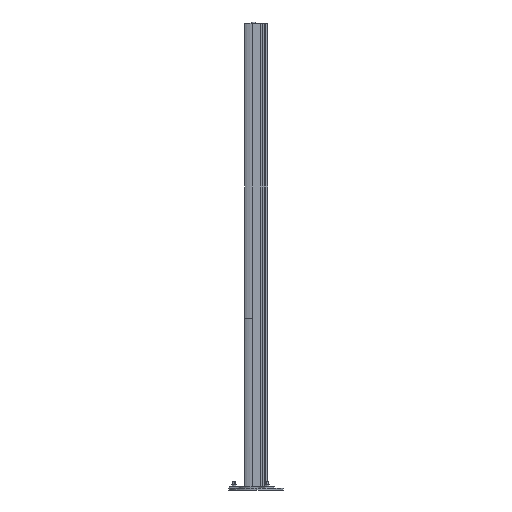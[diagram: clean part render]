
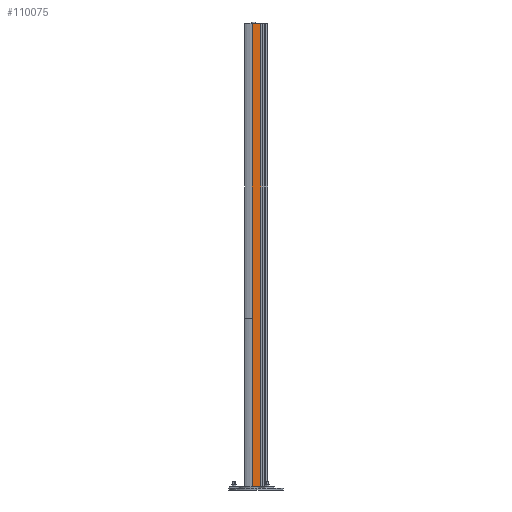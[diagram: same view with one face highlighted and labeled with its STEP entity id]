
A CAD part, left-side view. The second image highlights one B-rep face of the part: STEP entity #110075.
In plain terms, the highlighted planar face has unit normal (-1, 0, 0).
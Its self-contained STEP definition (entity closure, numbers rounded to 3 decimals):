
#103600=DIRECTION('',(0.,1.,0.));
#103601=VECTOR('',#103600,30.399);
#103602=CARTESIAN_POINT('',(-337.654,-66.035,
1567.));
#103603=LINE('',#103602,#103601);
#103607=DIRECTION('',(0.,1.,0.));
#103608=VECTOR('',#103607,30.399);
#103609=CARTESIAN_POINT('',(-337.654,-66.035,
-83.));
#103610=LINE('',#103609,#103608);
#103614=DIRECTION('',(0.,0.,1.));
#103615=VECTOR('',#103614,1650.);
#103616=CARTESIAN_POINT('',(-337.654,-35.636,
-83.));
#103617=LINE('',#103616,#103615);
#103621=DIRECTION('',(0.,0.,-1.));
#103622=VECTOR('',#103621,1650.);
#103623=CARTESIAN_POINT('',(-337.654,-66.035,
1567.));
#103624=LINE('',#103623,#103622);
#106610=CARTESIAN_POINT('',(-337.654,-35.636,
-83.));
#106612=VERTEX_POINT('',#106610);
#106788=CARTESIAN_POINT('',(-337.653,-35.636,
1567.));
#106790=VERTEX_POINT('',#106788);
#107100=CARTESIAN_POINT('',(-337.654,-66.035,
-83.));
#107101=VERTEX_POINT('',#107100);
#107478=CARTESIAN_POINT('',(-337.654,-66.035,
1567.));
#107479=VERTEX_POINT('',#107478);
#110062=CARTESIAN_POINT('',(-337.654,-50.836,
742.));
#110063=DIRECTION('',(1.,0.,0.));
#110064=DIRECTION('',(0.,1.,0.));
#110065=AXIS2_PLACEMENT_3D('',#110062,#110063,#110064);
#110066=PLANE('',#110065);
#110067=ORIENTED_EDGE('',*,*,#107855,.F.);
#110069=ORIENTED_EDGE('',*,*,#110068,.T.);
#110070=ORIENTED_EDGE('',*,*,#108689,.T.);
#110072=ORIENTED_EDGE('',*,*,#110071,.T.);
#110073=EDGE_LOOP('',(#110067,#110069,#110070,#110072));
#110074=FACE_OUTER_BOUND('',#110073,.F.);
#110075=ADVANCED_FACE('',(#110074),#110066,.F.);
#107855=EDGE_CURVE('',#107479,#106790,#103603,.T.);
#108689=EDGE_CURVE('',#107101,#106612,#103610,.T.);
#110068=EDGE_CURVE('',#107479,#107101,#103624,.T.);
#110071=EDGE_CURVE('',#106612,#106790,#103617,.T.);
